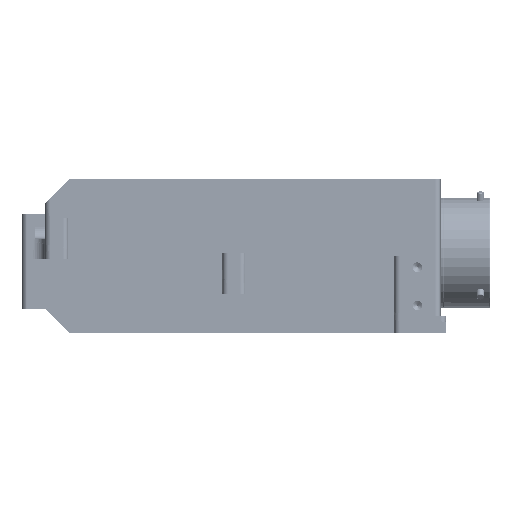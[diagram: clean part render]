
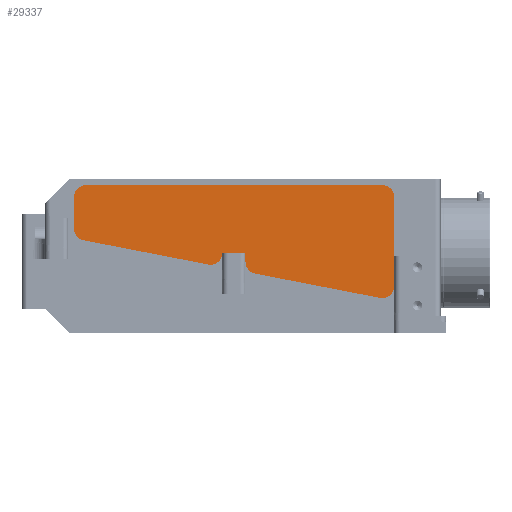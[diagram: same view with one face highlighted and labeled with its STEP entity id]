
A CAD part, front view. The second image highlights one B-rep face of the part: STEP entity #29337.
In plain terms, the highlighted planar face has unit normal (0, -1, 0).
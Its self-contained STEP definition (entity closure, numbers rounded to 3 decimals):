
#2653=CIRCLE('',#84301,3.1);
#2654=CIRCLE('',#84304,3.1);
#2655=CIRCLE('',#84305,3.1);
#2656=CIRCLE('',#84306,3.1);
#2657=CIRCLE('',#84307,3.1);
#2658=CIRCLE('',#84308,3.1);
#29337=ADVANCED_FACE('',(#35168),#33072,.F.);
#33072=PLANE('',#84309);
#35168=FACE_OUTER_BOUND('',#37904,.T.);
#37904=EDGE_LOOP('',(#53972,#53973,#53974,#53975,#53976,#53977,#53978,#53979,
#53980,#53981,#53982,#53983,#53984));
#43628=LINE('',#109084,#47463);
#43634=LINE('',#109094,#47469);
#43638=LINE('',#109103,#47473);
#43898=LINE('',#111062,#47735);
#43902=LINE('',#111070,#47739);
#43905=LINE('',#111076,#47742);
#43908=LINE('',#111084,#47745);
#47463=VECTOR('',#90790,1.);
#47469=VECTOR('',#90798,1.);
#47473=VECTOR('',#90806,1.);
#47735=VECTOR('',#92042,1.);
#47739=VECTOR('',#92048,1.);
#47742=VECTOR('',#92053,1.);
#47745=VECTOR('',#92062,1.);
#53972=ORIENTED_EDGE('',*,*,#74604,.T.);
#53973=ORIENTED_EDGE('',*,*,#74606,.T.);
#53974=ORIENTED_EDGE('',*,*,#74173,.F.);
#53975=ORIENTED_EDGE('',*,*,#74607,.T.);
#53976=ORIENTED_EDGE('',*,*,#74600,.T.);
#53977=ORIENTED_EDGE('',*,*,#74608,.T.);
#53978=ORIENTED_EDGE('',*,*,#74597,.T.);
#53979=ORIENTED_EDGE('',*,*,#74609,.T.);
#53980=ORIENTED_EDGE('',*,*,#74593,.T.);
#53981=ORIENTED_EDGE('',*,*,#74602,.T.);
#53982=ORIENTED_EDGE('',*,*,#74184,.F.);
#53983=ORIENTED_EDGE('',*,*,#74179,.F.);
#53984=ORIENTED_EDGE('',*,*,#74610,.T.);
#67929=VERTEX_POINT('',#109085);
#67930=VERTEX_POINT('',#109086);
#67931=VERTEX_POINT('',#109093);
#67932=VERTEX_POINT('',#109095);
#67934=VERTEX_POINT('',#109101);
#68137=VERTEX_POINT('',#111063);
#68138=VERTEX_POINT('',#111064);
#68139=VERTEX_POINT('',#111069);
#68140=VERTEX_POINT('',#111071);
#68141=VERTEX_POINT('',#111075);
#68142=VERTEX_POINT('',#111077);
#68143=VERTEX_POINT('',#111083);
#68144=VERTEX_POINT('',#111085);
#74173=EDGE_CURVE('',#67929,#67930,#43628,.T.);
#74179=EDGE_CURVE('',#67931,#67932,#43634,.T.);
#74184=EDGE_CURVE('',#67932,#67934,#43638,.T.);
#74593=EDGE_CURVE('',#68137,#68138,#43898,.T.);
#74597=EDGE_CURVE('',#68140,#68139,#43902,.T.);
#74600=EDGE_CURVE('',#68142,#68141,#43905,.T.);
#74602=EDGE_CURVE('',#68138,#67934,#2653,.T.);
#74604=EDGE_CURVE('',#68144,#68143,#43908,.T.);
#74606=EDGE_CURVE('',#68143,#67930,#2654,.T.);
#74607=EDGE_CURVE('',#67929,#68142,#2655,.T.);
#74608=EDGE_CURVE('',#68141,#68140,#2656,.T.);
#74609=EDGE_CURVE('',#68139,#68137,#2657,.T.);
#74610=EDGE_CURVE('',#67931,#68144,#2658,.T.);
#84301=AXIS2_PLACEMENT_3D('',#111080,#92057,#92058);
#84304=AXIS2_PLACEMENT_3D('',#111088,#92066,#92067);
#84305=AXIS2_PLACEMENT_3D('',#111089,#92068,#92069);
#84306=AXIS2_PLACEMENT_3D('',#111090,#92070,#92071);
#84307=AXIS2_PLACEMENT_3D('',#111091,#92072,#92073);
#84308=AXIS2_PLACEMENT_3D('',#111092,#92074,#92075);
#84309=AXIS2_PLACEMENT_3D('',#111093,#92076,#92077);
#90790=DIRECTION('',(0.,0.,-1.));
#90798=DIRECTION('',(0.,0.,1.));
#90806=DIRECTION('',(-1.,0.,0.));
#92042=DIRECTION('',(0.982,0.,-0.191));
#92048=DIRECTION('',(0.,0.,-1.));
#92053=DIRECTION('',(-1.,0.,0.));
#92057=DIRECTION('',(0.,-1.,0.));
#92058=DIRECTION('',(1.,0.,0.));
#92062=DIRECTION('',(0.982,0.,-0.191));
#92066=DIRECTION('',(0.,-1.,0.));
#92067=DIRECTION('',(0.,0.,1.));
#92068=DIRECTION('',(0.,-1.,0.));
#92069=DIRECTION('',(0.,0.,1.));
#92070=DIRECTION('',(0.,-1.,0.));
#92071=DIRECTION('',(0.,0.,1.));
#92072=DIRECTION('',(0.,-1.,0.));
#92073=DIRECTION('',(0.,0.,1.));
#92074=DIRECTION('',(0.,-1.,0.));
#92075=DIRECTION('',(0.,0.,1.));
#92076=DIRECTION('',(0.,1.,0.));
#92077=DIRECTION('',(0.,0.,1.));
#109084=CARTESIAN_POINT('',(41.675,-76.3,35.93));
#109085=CARTESIAN_POINT('',(41.675,-76.3,32.83));
#109086=CARTESIAN_POINT('',(41.675,-76.3,9.693));
#109093=CARTESIAN_POINT('',(3.,-76.3,16.006));
#109094=CARTESIAN_POINT('',(3.,-76.3,13.45));
#109095=CARTESIAN_POINT('',(3.,-76.3,18.422));
#109101=CARTESIAN_POINT('',(-3.,-76.3,18.422));
#109103=CARTESIAN_POINT('',(3.,-76.3,18.422));
#111062=CARTESIAN_POINT('',(-6.691,-76.3,15.334));
#111063=CARTESIAN_POINT('',(-39.067,-76.3,21.627));
#111064=CARTESIAN_POINT('',(-6.691,-76.3,15.334));
#111069=CARTESIAN_POINT('',(-41.575,-76.3,24.67));
#111070=CARTESIAN_POINT('',(-41.575,-76.3,22.115));
#111071=CARTESIAN_POINT('',(-41.575,-76.3,32.83));
#111075=CARTESIAN_POINT('',(-38.475,-76.3,35.93));
#111076=CARTESIAN_POINT('',(-41.575,-76.3,35.93));
#111077=CARTESIAN_POINT('',(38.575,-76.3,35.93));
#111080=CARTESIAN_POINT('',(-6.1,-76.3,18.377));
#111083=CARTESIAN_POINT('',(37.983,-76.3,6.65));
#111084=CARTESIAN_POINT('',(40.876,-76.3,6.088));
#111085=CARTESIAN_POINT('',(5.508,-76.3,12.963));
#111088=CARTESIAN_POINT('',(38.575,-76.3,9.693));
#111089=CARTESIAN_POINT('',(38.575,-76.3,32.83));
#111090=CARTESIAN_POINT('',(-38.475,-76.3,32.83));
#111091=CARTESIAN_POINT('',(-38.475,-76.3,24.67));
#111092=CARTESIAN_POINT('',(6.1,-76.3,16.006));
#111093=CARTESIAN_POINT('',(38.575,-76.3,8.165));
